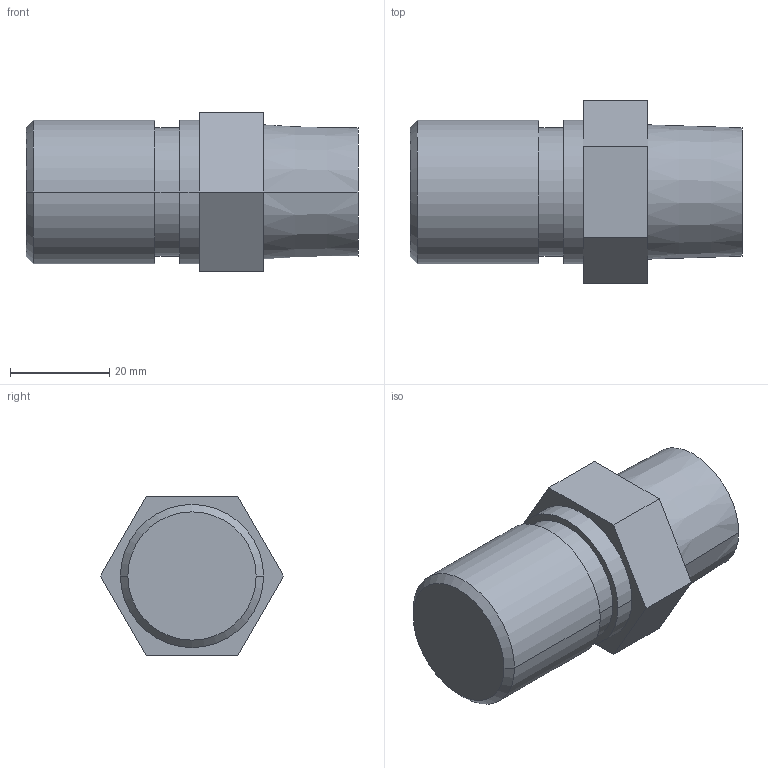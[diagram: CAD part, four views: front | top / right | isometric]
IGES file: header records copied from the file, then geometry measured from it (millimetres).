
Global section: file name: No Iges File Name specified; native system: Autodesk Inventor 2009; preprocessor: AutoDesk Inventor Iges Exporter R2009; author: y-shimohigashi; date: 20080702.105541; units: millimetre
Bounding box: 67 x 36.95 x 32 mm (x, y, z)
Volume: 44249.8 mm3; surface area: 8047.7 mm2
Topology: 1 solids, 1 shells, 22 faces, 46 edges, 30 vertices
Faces by surface type: plane 12, cylinder 6, cone 4
